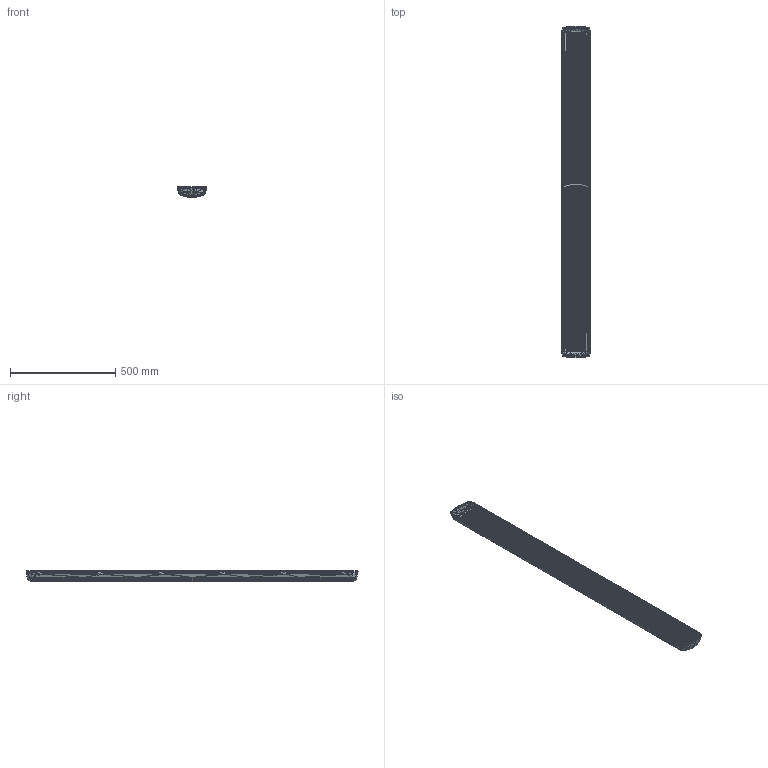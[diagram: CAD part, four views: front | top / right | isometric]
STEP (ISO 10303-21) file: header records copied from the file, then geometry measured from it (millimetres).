
FILE_DESCRIPTION((''),'2;1');
FILE_NAME('051282', '2026-01-23T09:20:13', (''), (''), 'ImageToStl.com STEP Converter','', '');
FILE_SCHEMA(('AUTOMOTIVE_DESIGN_CC2'));
Length unit declared in the file: metre
Products named in the file (1): product0
Bounding box: 142.1 x 1574.16 x 52 mm (x, y, z)
Surface area: 651416.3 mm2 (no closed solid volume)
Topology: 0 solids, 36892 shells, 36892 faces, 110676 edges, 18448 vertices
Faces by surface type: plane 36892
Entity records: 848548 total; most frequent: DIRECTION 184462, ORIENTED_EDGE 110676, EDGE_CURVE 110676, LINE 110676, VECTOR 110676, AXIS2_PLACEMENT_3D 36893, FACE_SURFACE 36892, PLANE 36892
